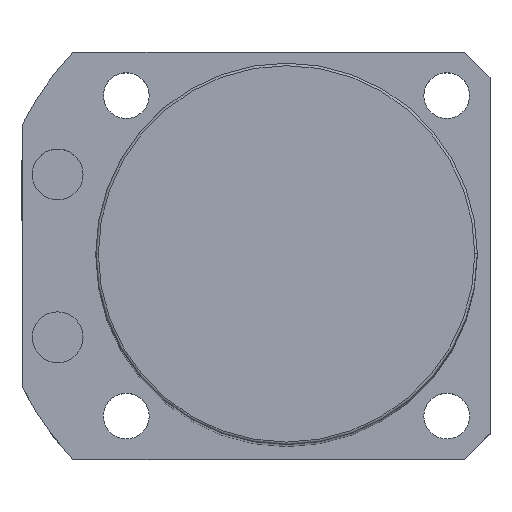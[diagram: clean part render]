
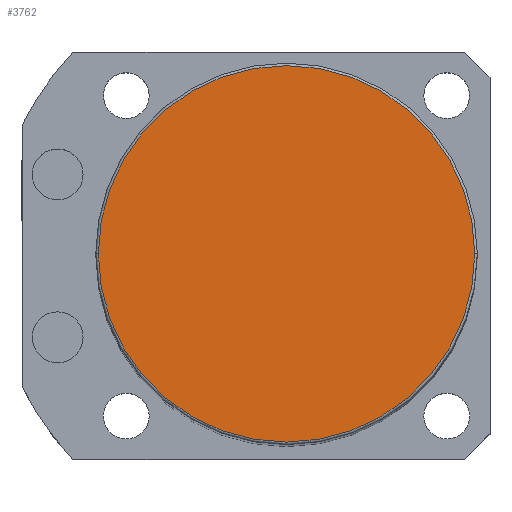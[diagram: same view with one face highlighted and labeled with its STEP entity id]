
A CAD part, top view. The second image highlights one B-rep face of the part: STEP entity #3762.
In plain terms, the highlighted planar face has unit normal (0, 0, 1).
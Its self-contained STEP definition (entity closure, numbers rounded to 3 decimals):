
#85 = EDGE_LOOP ( 'NONE', ( #441, #315 ) ) ;
#193 = PLANE ( 'NONE',  #4042 ) ;
#219 = FACE_OUTER_BOUND ( 'NONE', #85, .T. ) ;
#304 = EDGE_CURVE ( 'NONE', #6395, #5989, #6033, .T. ) ;
#315 = ORIENTED_EDGE ( 'NONE', *, *, #304, .T. ) ;
#441 = ORIENTED_EDGE ( 'NONE', *, *, #6184, .T. ) ;
#854 = CARTESIAN_POINT ( 'NONE',  ( 0., 0., 240.5 ) ) ;
#1079 = CARTESIAN_POINT ( 'NONE',  ( 0., 0., 240.5 ) ) ;
#1889 = DIRECTION ( 'NONE',  ( 1., 0., 0. ) ) ;
#2258 = DIRECTION ( 'NONE',  ( 1., 0., 0. ) ) ;
#2333 = CARTESIAN_POINT ( 'NONE',  ( 37., 0., 240.5 ) ) ;
#2392 = CARTESIAN_POINT ( 'NONE',  ( -37., 0., 240.5 ) ) ;
#2642 = AXIS2_PLACEMENT_3D ( 'NONE', #1079, #5099, #4074 ) ;
#2801 = AXIS2_PLACEMENT_3D ( 'NONE', #854, #4467, #1889 ) ;
#3506 = CIRCLE ( 'NONE', #2642, 37. ) ;
#3762 = ADVANCED_FACE ( 'NONE', ( #219 ), #193, .T. ) ;
#4042 = AXIS2_PLACEMENT_3D ( 'NONE', #4794, #4275, #2258 ) ;
#4074 = DIRECTION ( 'NONE',  ( 1., 0., 0. ) ) ;
#4275 = DIRECTION ( 'NONE',  ( 0., 0., 1. ) ) ;
#4467 = DIRECTION ( 'NONE',  ( 0., 0., 1. ) ) ;
#4794 = CARTESIAN_POINT ( 'NONE',  ( 0., 0., 240.5 ) ) ;
#5099 = DIRECTION ( 'NONE',  ( 0., 0., 1. ) ) ;
#5989 = VERTEX_POINT ( 'NONE', #2333 ) ;
#6033 = CIRCLE ( 'NONE', #2801, 37. ) ;
#6184 = EDGE_CURVE ( 'NONE', #5989, #6395, #3506, .T. ) ;
#6395 = VERTEX_POINT ( 'NONE', #2392 ) ;
